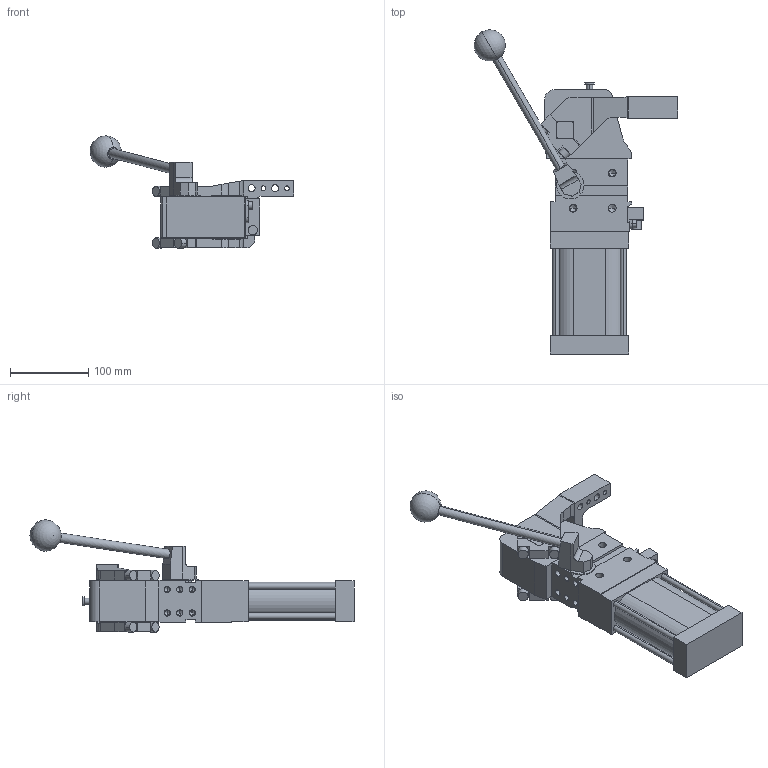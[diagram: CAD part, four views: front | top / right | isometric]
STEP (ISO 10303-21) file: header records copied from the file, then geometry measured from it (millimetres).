
FILE_DESCRIPTION (( 'STEP AP214' ), '1' );
FILE_NAME ('cplm63lav1ssi1g_16.STEP', '2023-01-26T14:35:24', ( '' ), ( '' ), 'SwSTEP 2.0', 'SolidWorks 2022', '' );
FILE_SCHEMA (( 'AUTOMOTIVE_DESIGN' ));
Length unit declared in the file: millimetre
Products named in the file (5): leva_dx_offset_15_cpl63; meccanica_cplm_63; comando_manuale_cplm_63; blocchetto_VEP_0; cplm63lav1ssi1g_16
Assembly tree (4 placements, depth 2):
  cplm63lav1ssi1g_16
    meccanica_cplm_63
    blocchetto_VEP_0
    leva_dx_offset_15_cpl63
    comando_manuale_cplm_63
Bounding box: 260.57 x 414.56 x 143.5 mm (x, y, z)
Volume: 1866232.6 mm3; surface area: 206774.2 mm2
Topology: 4 solids, 4 shells, 430 faces, 1128 edges, 699 vertices
Faces by surface type: plane 217, cylinder 161, cone 50, sphere 2
Entity records: 14523 total; most frequent: CARTESIAN_POINT 2312, DIRECTION 2297, ORIENTED_EDGE 2154, EDGE_CURVE 1077, AXIS2_PLACEMENT_3D 795, LINE 707, VECTOR 707, VERTEX_POINT 696
